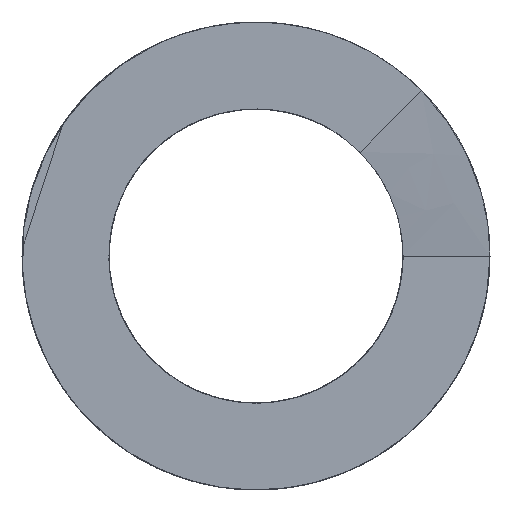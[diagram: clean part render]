
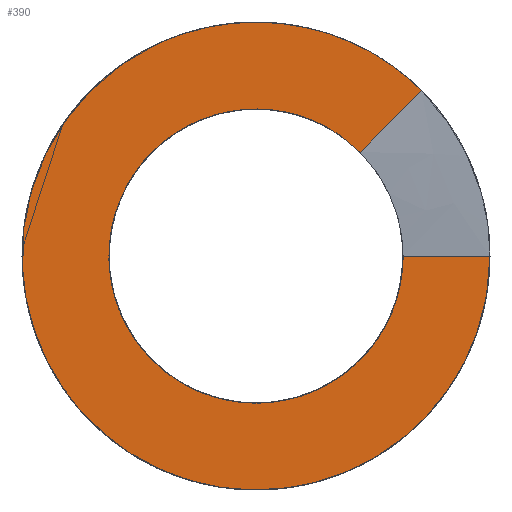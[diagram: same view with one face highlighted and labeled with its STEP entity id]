
A CAD part, front view. The second image highlights one B-rep face of the part: STEP entity #390.
In plain terms, the highlighted planar face has unit normal (0, -1, 0).
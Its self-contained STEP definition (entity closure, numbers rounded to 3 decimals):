
#36=LINE('',#2195,#44);
#44=VECTOR('',#461,10.);
#74=B_SPLINE_CURVE_WITH_KNOTS('',3,(#1661,#1662,#1663,#1664,#1665,#1666,
#1667,#1668,#1669,#1670,#1671,#1672,#1673,#1674,#1675,#1676,#1677,#1678,
#1679,#1680,#1681,#1682,#1683,#1684,#1685,#1686,#1687,#1688,#1689,#1690,
#1691,#1692,#1693,#1694,#1695,#1696,#1697,#1698,#1699,#1700),
 .UNSPECIFIED.,.F.,.F.,(4,2,2,2,2,2,2,2,2,2,2,2,2,2,2,2,2,2,2,4),(-1.681,
-1.586,-1.491,-1.432,-1.324,
-1.228,-1.143,-1.072,-1.015,
-0.995,-0.982,-0.953,-0.834,
-0.715,-0.596,-0.477,-0.357,
-0.238,-0.119,0.),.UNSPECIFIED.);
#83=B_SPLINE_CURVE_WITH_KNOTS('',3,(#2093,#2094,#2095,#2096,#2097,#2098,
#2099,#2100,#2101,#2102,#2103,#2104,#2105,#2106,#2107,#2108,#2109,#2110,
#2111,#2112,#2113,#2114,#2115,#2116,#2117,#2118,#2119,#2120,#2121,#2122,
#2123,#2124,#2125,#2126,#2127,#2128,#2129,#2130,#2131,#2132,#2133,#2134),
 .UNSPECIFIED.,.F.,.F.,(4,2,2,2,2,2,2,2,2,2,2,2,2,2,2,2,2,2,2,2,4),(-2.673,
-2.505,-2.338,-2.148,-1.959,
-1.769,-1.58,-1.39,-1.254,
-1.141,-1.118,-1.098,-1.073,
-1.041,-1.,-0.836,-0.709,
-0.571,-0.379,-0.189,0.),
 .UNSPECIFIED.);
#89=B_SPLINE_CURVE_WITH_KNOTS('',3,(#2189,#2190,#2191,#2192,#2193,#2194),
 .UNSPECIFIED.,.F.,.F.,(4,2,4),(-0.18,-0.09,0.),.UNSPECIFIED.);
#114=FACE_OUTER_BOUND('',#140,.T.);
#140=EDGE_LOOP('',(#335,#336,#337,#338));
#171=VERTEX_POINT('',#1397);
#178=VERTEX_POINT('',#1656);
#181=VERTEX_POINT('',#1799);
#186=VERTEX_POINT('',#2092);
#224=EDGE_CURVE('',#178,#171,#74,.T.);
#235=EDGE_CURVE('',#181,#186,#83,.T.);
#242=EDGE_CURVE('',#186,#178,#89,.T.);
#243=EDGE_CURVE('',#171,#181,#36,.T.);
#335=ORIENTED_EDGE('',*,*,#242,.F.);
#336=ORIENTED_EDGE('',*,*,#235,.F.);
#337=ORIENTED_EDGE('',*,*,#243,.F.);
#338=ORIENTED_EDGE('',*,*,#224,.F.);
#372=PLANE('',#429);
#390=ADVANCED_FACE('',(#114),#372,.F.);
#429=AXIS2_PLACEMENT_3D('',#2188,#459,#460);
#459=DIRECTION('center_axis',(0.,1.,0.));
#460=DIRECTION('ref_axis',(0.,0.,1.));
#461=DIRECTION('',(1.,0.,0.));
#1397=CARTESIAN_POINT('',(3.05,0.,0.));
#1656=CARTESIAN_POINT('',(2.157,0.,2.157));
#1661=CARTESIAN_POINT('Ctrl Pts',(2.157,0.,
2.157));
#1662=CARTESIAN_POINT('Ctrl Pts',(1.933,0.,
2.381));
#1663=CARTESIAN_POINT('Ctrl Pts',(1.675,0.,
2.568));
#1664=CARTESIAN_POINT('Ctrl Pts',(1.112,0.,
2.858));
#1665=CARTESIAN_POINT('Ctrl Pts',(0.809,0.,
2.958));
#1666=CARTESIAN_POINT('Ctrl Pts',(0.302,0.,
3.041));
#1667=CARTESIAN_POINT('Ctrl Pts',(0.104,0.,
3.055));
#1668=CARTESIAN_POINT('Ctrl Pts',(-0.452,0.,
3.038));
#1669=CARTESIAN_POINT('Ctrl Pts',(-0.805,0.,
2.964));
#1670=CARTESIAN_POINT('Ctrl Pts',(-1.435,0.,
2.711));
#1671=CARTESIAN_POINT('Ctrl Pts',(-1.711,0.,
2.545));
#1672=CARTESIAN_POINT('Ctrl Pts',(-2.174,0.,
2.158));
#1673=CARTESIAN_POINT('Ctrl Pts',(-2.365,0.,
1.947));
#1674=CARTESIAN_POINT('Ctrl Pts',(-2.657,0.,
1.516));
#1675=CARTESIAN_POINT('Ctrl Pts',(-2.768,0.,
1.304));
#1676=CARTESIAN_POINT('Ctrl Pts',(-2.919,0.,
0.904));
#1677=CARTESIAN_POINT('Ctrl Pts',(-2.97,0.,
0.72));
#1678=CARTESIAN_POINT('Ctrl Pts',(-3.015,0.,
0.468));
#1679=CARTESIAN_POINT('Ctrl Pts',(-3.024,0.,
0.403));
#1680=CARTESIAN_POINT('Ctrl Pts',(-3.036,0.,
0.296));
#1681=CARTESIAN_POINT('Ctrl Pts',(-3.04,0.,
0.254));
#1682=CARTESIAN_POINT('Ctrl Pts',(-3.049,0.,
0.115));
#1683=CARTESIAN_POINT('Ctrl Pts',(-3.052,0.,0.017));
#1684=CARTESIAN_POINT('Ctrl Pts',(-3.039,0.,-0.477));
#1685=CARTESIAN_POINT('Ctrl Pts',(-2.951,0.,-0.868));
#1686=CARTESIAN_POINT('Ctrl Pts',(-2.63,0.,-1.595));
#1687=CARTESIAN_POINT('Ctrl Pts',(-2.4,0.,-1.923));
#1688=CARTESIAN_POINT('Ctrl Pts',(-1.828,0.,-2.474));
#1689=CARTESIAN_POINT('Ctrl Pts',(-1.49,0.,-2.691));
#1690=CARTESIAN_POINT('Ctrl Pts',(-0.751,0.,-2.983));
#1691=CARTESIAN_POINT('Ctrl Pts',(-0.357,0.,-3.055));
#1692=CARTESIAN_POINT('Ctrl Pts',(0.437,0.,-3.045));
#1693=CARTESIAN_POINT('Ctrl Pts',(0.829,0.,-2.962));
#1694=CARTESIAN_POINT('Ctrl Pts',(1.56,0.,-2.651));
#1695=CARTESIAN_POINT('Ctrl Pts',(1.892,0.,-2.425));
#1696=CARTESIAN_POINT('Ctrl Pts',(2.45,0.,-1.86));
#1697=CARTESIAN_POINT('Ctrl Pts',(2.671,0.,-1.525));
#1698=CARTESIAN_POINT('Ctrl Pts',(2.972,0.,-0.791));
#1699=CARTESIAN_POINT('Ctrl Pts',(3.05,0.,-0.397));
#1700=CARTESIAN_POINT('Ctrl Pts',(3.05,0.,0.));
#1799=CARTESIAN_POINT('',(4.85,0.,0.));
#2092=CARTESIAN_POINT('',(3.429,0.,3.429));
#2093=CARTESIAN_POINT('Ctrl Pts',(4.85,0.,0.));
#2094=CARTESIAN_POINT('Ctrl Pts',(4.85,0.,-0.559));
#2095=CARTESIAN_POINT('Ctrl Pts',(4.753,0.,-1.114));
#2096=CARTESIAN_POINT('Ctrl Pts',(4.375,0.,-2.167));
#2097=CARTESIAN_POINT('Ctrl Pts',(4.096,0.,-2.656));
#2098=CARTESIAN_POINT('Ctrl Pts',(3.338,0.,-3.575));
#2099=CARTESIAN_POINT('Ctrl Pts',(2.845,0.,-3.979));
#2100=CARTESIAN_POINT('Ctrl Pts',(1.731,0.,-4.574));
#2101=CARTESIAN_POINT('Ctrl Pts',(1.121,0.,-4.761));
#2102=CARTESIAN_POINT('Ctrl Pts',(-0.135,0.,-4.889));
#2103=CARTESIAN_POINT('Ctrl Pts',(-0.77,0.,-4.83));
#2104=CARTESIAN_POINT('Ctrl Pts',(-1.981,0.,-4.472));
#2105=CARTESIAN_POINT('Ctrl Pts',(-2.546,0.,-4.176));
#2106=CARTESIAN_POINT('Ctrl Pts',(-3.531,0.,-3.385));
#2107=CARTESIAN_POINT('Ctrl Pts',(-3.941,0.,-2.897));
#2108=CARTESIAN_POINT('Ctrl Pts',(-4.466,0.,-1.946));
#2109=CARTESIAN_POINT('Ctrl Pts',(-4.628,0.,-1.519));
#2110=CARTESIAN_POINT('Ctrl Pts',(-4.813,0.,-0.707));
#2111=CARTESIAN_POINT('Ctrl Pts',(-4.854,0.,
-0.33));
#2112=CARTESIAN_POINT('Ctrl Pts',(-4.849,0.,
0.124));
#2113=CARTESIAN_POINT('Ctrl Pts',(-4.846,0.,
0.2));
#2114=CARTESIAN_POINT('Ctrl Pts',(-4.838,0.,
0.343));
#2115=CARTESIAN_POINT('Ctrl Pts',(-4.833,0.,
0.41));
#2116=CARTESIAN_POINT('Ctrl Pts',(-4.818,0.,
0.56));
#2117=CARTESIAN_POINT('Ctrl Pts',(-4.808,0.,
0.642));
#2118=CARTESIAN_POINT('Ctrl Pts',(-4.78,0.,
0.83));
#2119=CARTESIAN_POINT('Ctrl Pts',(-4.76,0.,
0.934));
#2120=CARTESIAN_POINT('Ctrl Pts',(-4.709,0.,
1.169));
#2121=CARTESIAN_POINT('Ctrl Pts',(-4.675,0.,
1.299));
#2122=CARTESIAN_POINT('Ctrl Pts',(-4.474,0.,
1.952));
#2123=CARTESIAN_POINT('Ctrl Pts',(-4.225,0.,
2.444));
#2124=CARTESIAN_POINT('Ctrl Pts',(-3.648,0.,
3.224));
#2125=CARTESIAN_POINT('Ctrl Pts',(-3.354,0.,
3.529));
#2126=CARTESIAN_POINT('Ctrl Pts',(-2.662,0.,
4.08));
#2127=CARTESIAN_POINT('Ctrl Pts',(-2.261,0.,
4.316));
#2128=CARTESIAN_POINT('Ctrl Pts',(-1.241,0.,
4.732));
#2129=CARTESIAN_POINT('Ctrl Pts',(-0.607,0.,
4.854));
#2130=CARTESIAN_POINT('Ctrl Pts',(0.663,0.,
4.846));
#2131=CARTESIAN_POINT('Ctrl Pts',(1.288,0.,
4.718));
#2132=CARTESIAN_POINT('Ctrl Pts',(2.453,0.,
4.231));
#2133=CARTESIAN_POINT('Ctrl Pts',(2.983,0.,
3.876));
#2134=CARTESIAN_POINT('Ctrl Pts',(3.429,0.,
3.429));
#2188=CARTESIAN_POINT('Origin',(0.,0.,0.));
#2189=CARTESIAN_POINT('Ctrl Pts',(3.429,0.,
3.429));
#2190=CARTESIAN_POINT('Ctrl Pts',(3.217,0.,
3.217));
#2191=CARTESIAN_POINT('Ctrl Pts',(3.005,0.,
3.005));
#2192=CARTESIAN_POINT('Ctrl Pts',(2.581,0.,
2.581));
#2193=CARTESIAN_POINT('Ctrl Pts',(2.369,0.,2.369));
#2194=CARTESIAN_POINT('Ctrl Pts',(2.157,0.,2.157));
#2195=CARTESIAN_POINT('',(1.975,0.,0.));
